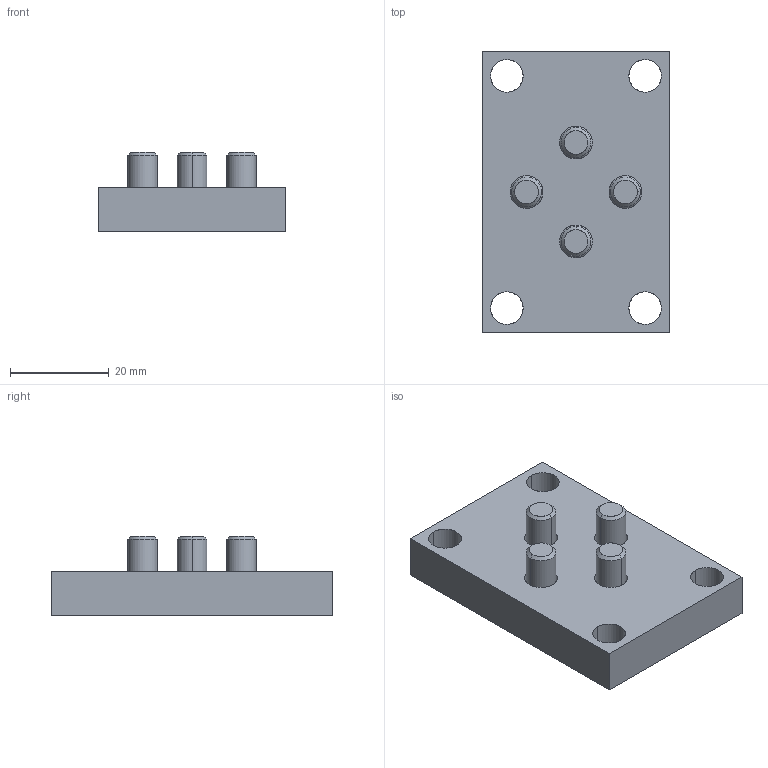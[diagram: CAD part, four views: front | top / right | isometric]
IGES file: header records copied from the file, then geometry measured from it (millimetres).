
Global section: file name: E:\UnigraphicsGraphicData\MISUMI_PRESS-PARTS\IGES\3d_am-38_03183_r00.igs; native system: NX V5.0; preprocessor: UGS NX IGES V5.0; author: MISUMI; date: 20110105.155927; units: millimetre
Bounding box: 38 x 57 x 16 mm (x, y, z)
Surface area: 9056.5 mm2 (no closed solid volume)
Topology: 0 solids, 0 shells, 90 faces, 552 edges, 552 vertices
Faces by surface type: bspline 90
